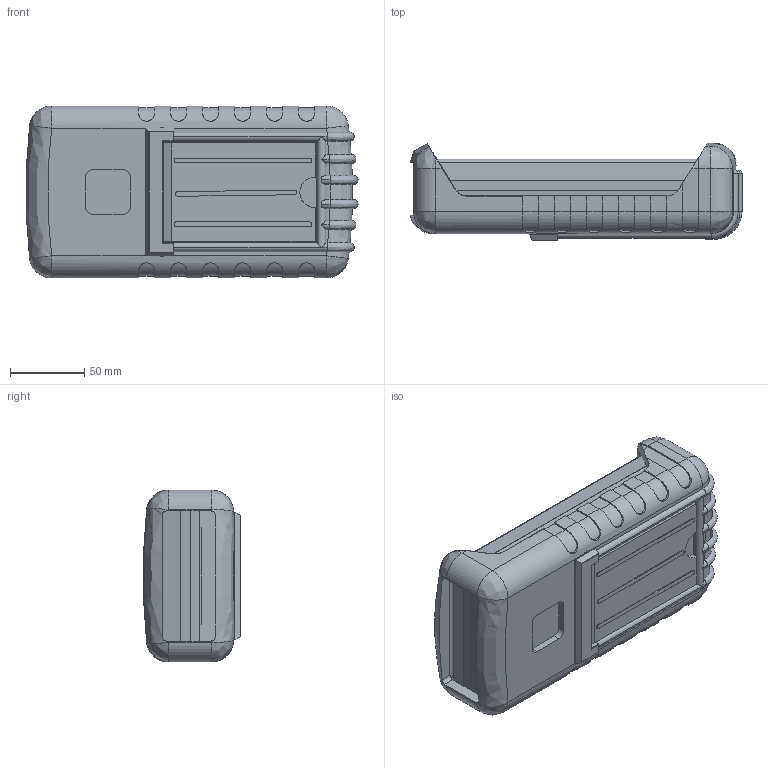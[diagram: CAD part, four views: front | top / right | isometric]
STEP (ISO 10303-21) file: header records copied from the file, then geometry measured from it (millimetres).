
FILE_DESCRIPTION (( 'STEP AP214' ), '1' );
FILE_NAME ('100-42-6A-E-F.STEP', '2020-11-20T03:09:02', ( 'Rudy' ), ( '' ), 'SwSTEP 2.0', 'SolidWorks 2016', '' );
FILE_SCHEMA (( 'AUTOMOTIVE_DESIGN' ));
Length unit declared in the file: millimetre
Products named in the file (8): 100-42-6A-E-F; 100 RBE; 100 RBE Stand; 100-06 EXPANDER; 6AAdoor; 100-04-flush Top; 100-02 BOT-6AA
Assembly tree (7 placements, depth 3):
  100-42-6A-E-F
    100-02 BOT-6AA
    100-04-flush Top
    6AAdoor
    100-06 EXPANDER
    100 RBE
      100 RBE
      100 RBE Stand
Bounding box: 223.76 x 65.39 x 115.87 mm (x, y, z)
Volume: 427377.1 mm3; surface area: 275088.4 mm2
Topology: 6 solids, 6 shells, 1609 faces, 4368 edges, 2776 vertices
Faces by surface type: plane 995, cylinder 459, bspline 113, cone 42
Entity records: 76625 total; most frequent: CARTESIAN_POINT 19692, ORIENTED_EDGE 8682, DIRECTION 7256, EDGE_CURVE 4341, LINE 3082, VECTOR 3082, VERTEX_POINT 2776, AXIS2_PLACEMENT_3D 2087
